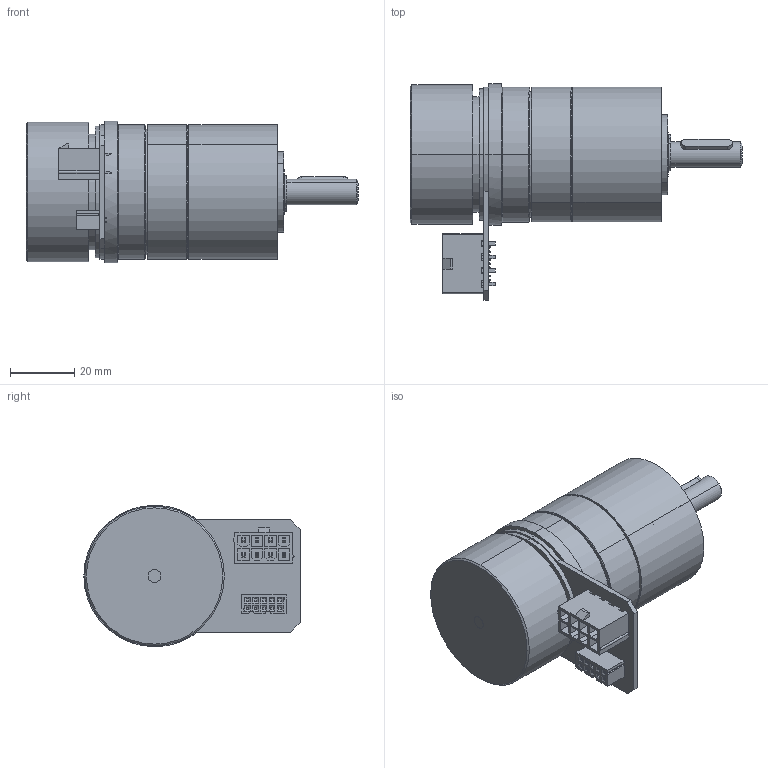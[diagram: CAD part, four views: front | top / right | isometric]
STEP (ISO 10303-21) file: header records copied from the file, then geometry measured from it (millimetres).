
FILE_DESCRIPTION (( 'STEP AP214' ), '1' );
FILE_NAME ('EC45Flat-70W + PM42-1 étage.STEP', '2014-11-18T14:08:04', ( '' ), ( '' ), 'SwSTEP 2.0', 'SolidWorks 2013', '' );
FILE_SCHEMA (( 'AUTOMOTIVE_DESIGN' ));
Length unit declared in the file: millimetre
Products named in the file (22): 8012556_MOTORRITZEL_Z17_1_3; 8001288_ANLAUFSCHEIBE_1ST_9; 8007606_DICHTRING_10; EC45Flat-70w+mile; P8209_8007589_ZAHNKRANZ_Z46_10; 906350101; 039281083; EC45Flat-70W + PM42-1 étage; EC45FLAT-70W+mile; PM42 pour EC45Flat-70W_1 etages; Coté sortie^PM42 pour EC45Flat-70W; SCHRAUBE_1241978_17; 3X3X16_D6885A_11; D471_8X0_8_11; 8001316_ABTRIEB_LK4_KPL_10; 8001305_LAGERBOLZEN_11; VBZ_K7841_ABTRIEB_AF0_11; DIN998_PS_8X14X1_11; D625-608-2RS_10; 8007595_LAGERFLANSCH_10; Coté moteur^PM42 pour EC45Flat-70W; 1008602_Part
Assembly tree (29 placements, depth 5):
  EC45Flat-70W + PM42-1 étage
    PM42 pour EC45Flat-70W_1 etages
      P8209_8007589_ZAHNKRANZ_Z46_10
      Coté moteur^PM42 pour EC45Flat-70W
        8007606_DICHTRING_10
        8001288_ANLAUFSCHEIBE_1ST_9
        8012556_MOTORRITZEL_Z17_1_3
        1008602_Part
      Coté sortie^PM42 pour EC45Flat-70W
        8007595_LAGERFLANSCH_10
        D625-608-2RS_10  x2
        DIN998_PS_8X14X1_11  x2
        8001316_ABTRIEB_LK4_KPL_10
          VBZ_K7841_ABTRIEB_AF0_11
          8001305_LAGERBOLZEN_11  x3
        D471_8X0_8_11
        3X3X16_D6885A_11
        8007606_DICHTRING_10
        SCHRAUBE_1241978_17  x4
    EC45Flat-70w+mile
      EC45FLAT-70W+mile
      039281083
      906350101
Bounding box: 103.3 x 67.3 x 44 mm (x, y, z)
Volume: 71636.9 mm3; surface area: 54236.1 mm2
Topology: 22 solids, 43 shells, 1321 faces, 3381 edges, 2200 vertices
Faces by surface type: plane 779, cylinder 400, cone 90, bspline 52
Entity records: 38728 total; most frequent: CARTESIAN_POINT 7955, DIRECTION 6245, ORIENTED_EDGE 6086, EDGE_CURVE 3063, LINE 2197, VECTOR 2197, AXIS2_PLACEMENT_3D 2024, VERTEX_POINT 2010
